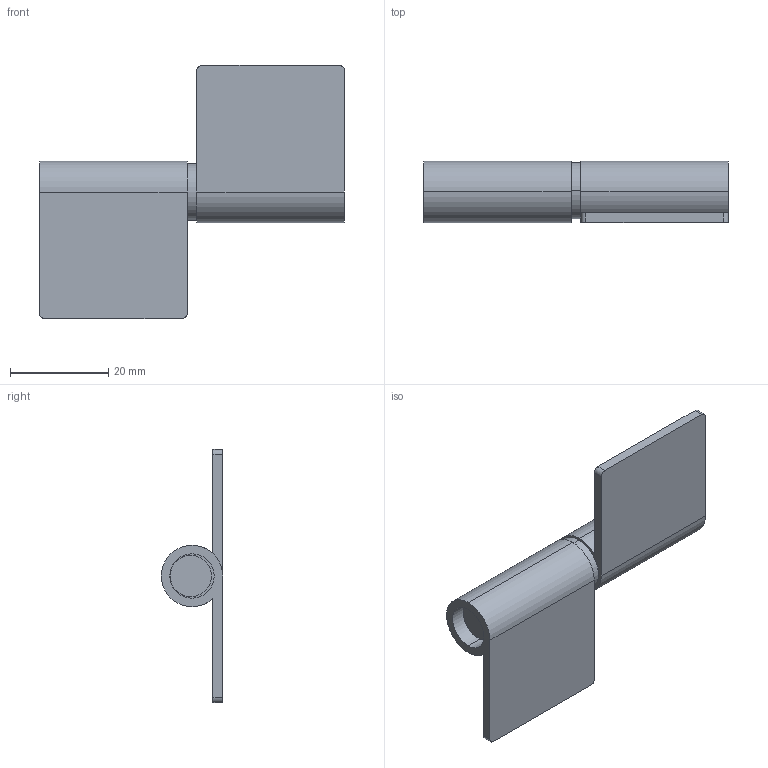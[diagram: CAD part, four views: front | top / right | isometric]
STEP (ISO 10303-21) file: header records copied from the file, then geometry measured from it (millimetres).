
FILE_DESCRIPTION (( 'STEP AP203' ), '1' );
FILE_NAME ('B30-20030.STEP', '2025-03-05T08:06:37', ( '' ), ( '' ), 'SwSTEP 2.0', 'SolidWorks 2021', '' );
FILE_SCHEMA (( 'CONFIG_CONTROL_DESIGN' ));
Length unit declared in the file: millimetre
Products named in the file (3): B30-20030-軸; B30-20030-片; B30-20030
Assembly tree (3 placements, depth 2):
  B30-20030
    B30-20030-片  x2
    B30-20030-軸
Bounding box: 62 x 12.5 x 51.5 mm (x, y, z)
Volume: 9450.8 mm3; surface area: 8791.8 mm2
Topology: 3 solids, 3 shells, 34 faces, 78 edges, 52 vertices
Faces by surface type: cylinder 20, plane 14
Entity records: 959 total; most frequent: DIRECTION 130, CARTESIAN_POINT 108, ORIENTED_EDGE 96, AXIS2_PLACEMENT_3D 54, EDGE_CURVE 48, VERTEX_POINT 32, PERSON_AND_ORGANIZATION 27, EDGE_LOOP 26
